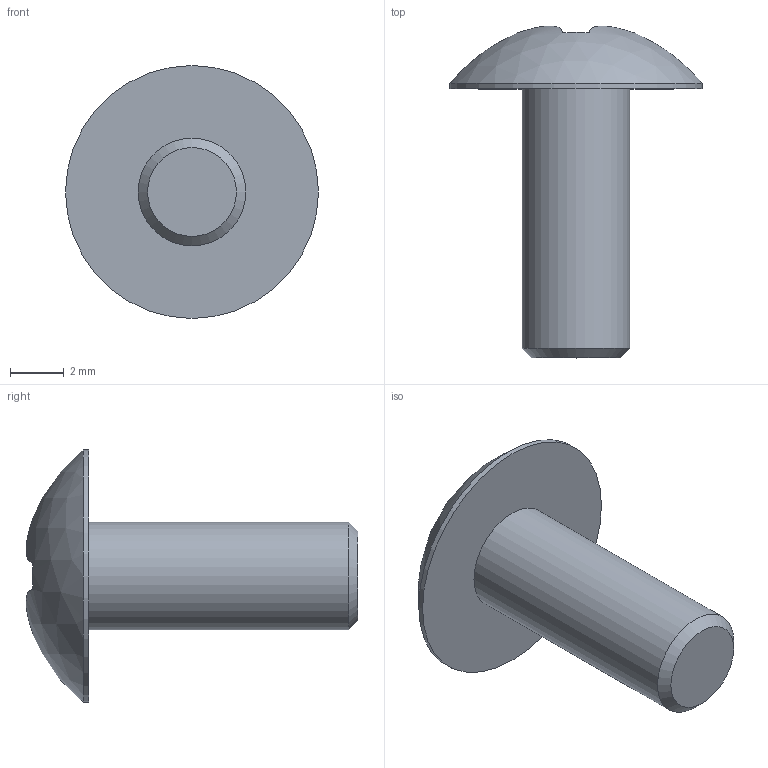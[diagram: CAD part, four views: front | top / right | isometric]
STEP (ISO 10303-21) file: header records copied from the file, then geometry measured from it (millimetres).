
FILE_DESCRIPTION(/* description */ (''),/* implementation_level */ '2;1');
FILE_NAME(/* name */ 'C:\Users\AMS43\Documents\Inventor\AMS\misumi\ボルト_ipt\ボルト_stp\TSBS-04-10.ipt.stp',/* time_stamp */ '2016-10-06T11:46:47+09:00',/* author */ ('AMS43'),/* organization */ (''),/* preprocessor_version */ 'ST-DEVELOPER v15.2',/* originating_system */ 'Autodesk Inventor 2014',/* authorisation */ '');
FILE_SCHEMA (('AUTOMOTIVE_DESIGN { 1 0 10303 214 3 1 1 }'));
Length unit declared in the file: metre
Products named in the file (1): TSBS-04-10
Bounding box: 9.4 x 12.33 x 9.4 mm (x, y, z)
Volume: 214.1 mm3; surface area: 297.7 mm2
Topology: 1 solids, 1 shells, 15 faces, 32 edges, 21 vertices
Faces by surface type: plane 7, cylinder 6, sphere 1, cone 1
Full cylindrical faces by diameter (mm): 4 x1, 9.4 x1
Entity records: 455 total; most frequent: CARTESIAN_POINT 102, DIRECTION 70, ORIENTED_EDGE 58, EDGE_CURVE 29, AXIS2_PLACEMENT_3D 29, VERTEX_POINT 21, EDGE_LOOP 20, FACE_OUTER_BOUND 15
